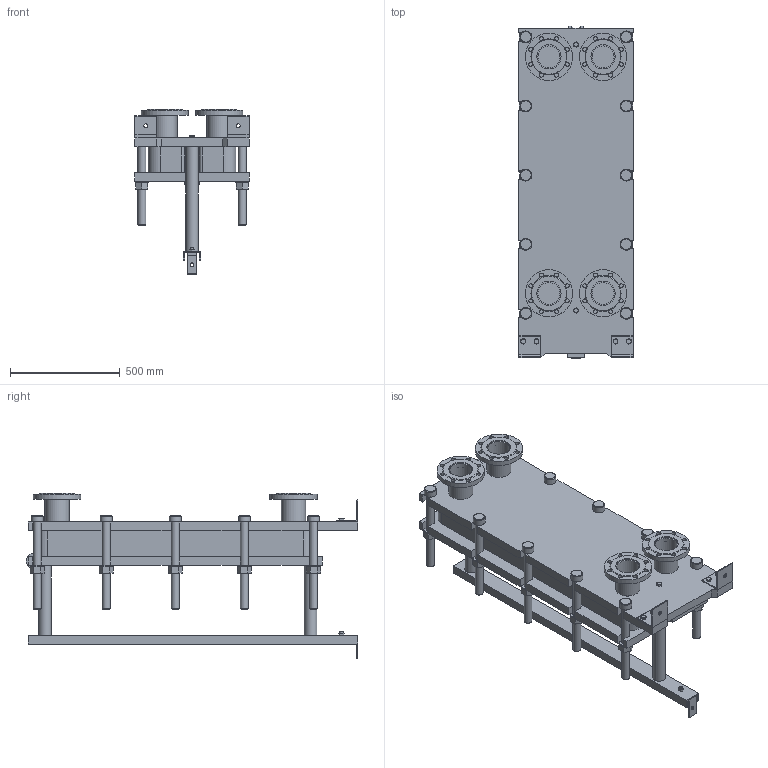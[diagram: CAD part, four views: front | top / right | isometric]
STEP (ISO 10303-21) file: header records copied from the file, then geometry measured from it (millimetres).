
FILE_DESCRIPTION(/* description */ (''),/* implementation_level */ '2;1');
FILE_NAME(/* name */ 'C:\Users\zhuro\Desktop\ENCO\TO\ЭН-04\ЭН-0,5-04-34-1.stp',/* time_stamp */ '2022-06-06T10:46:54+03:00',/* author */ ('zhuro'),/* organization */ (''),/* preprocessor_version */ 'ST-DEVELOPER v18.1',/* originating_system */ 'Autodesk Inventor 2022',/* authorisation */ '');
FILE_SCHEMA (('AUTOMOTIVE_DESIGN { 1 0 10303 214 3 1 1 }'));
Length unit declared in the file: millimetre
Products named in the file (1): ЭН-0,5-04-34-1
Bounding box: 520 x 1510 x 752 mm (x, y, z)
Volume: 126274350.4 mm3; surface area: 6903915.7 mm2
Topology: 45 solids, 45 shells, 668 faces, 1611 edges, 1048 vertices
Faces by surface type: plane 457, cylinder 166, cone 39, torus 6
Full cylindrical faces by diameter (mm): 8 x4, 10 x2, 16 x8, 18 x35, 36 x25, 40 x2, 42 x1, 45 x4, 54 x10, 57 x2, 60 x10, 68 x2, 100 x4, 110 x8, 215 x4
Entity records: 23607 total; most frequent: CARTESIAN_POINT 7348, DIRECTION 3371, ORIENTED_EDGE 3142, EDGE_CURVE 1571, AXIS2_PLACEMENT_3D 1199, VERTEX_POINT 1044, LINE 973, VECTOR 973
